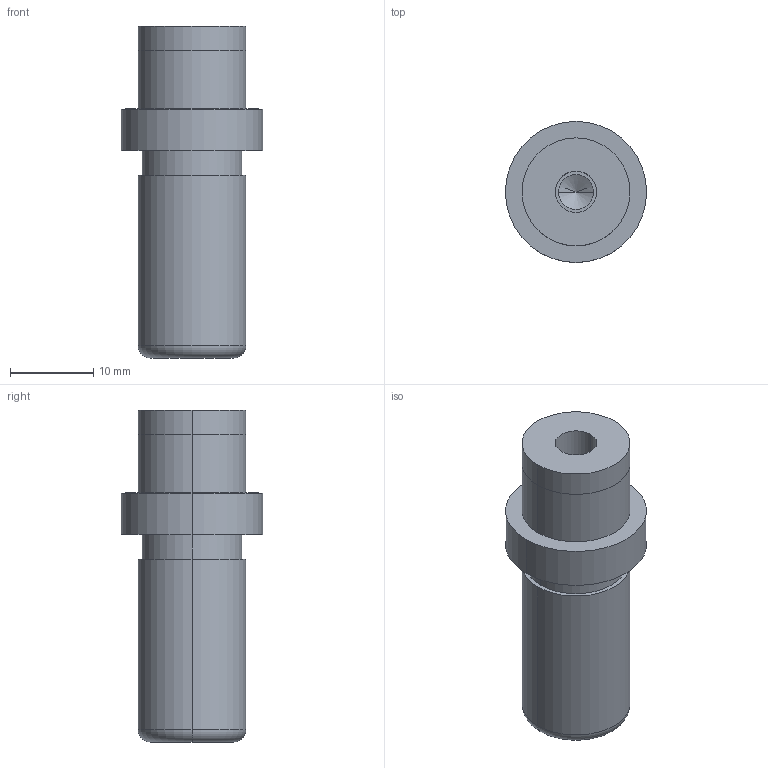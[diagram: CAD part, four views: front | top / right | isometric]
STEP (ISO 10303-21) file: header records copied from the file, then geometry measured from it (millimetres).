
FILE_DESCRIPTION(/* description */ (''),/* implementation_level */ '2;1');
FILE_NAME(/* name */ '3d_sgpw13-30_05288_r00.stp',/* time_stamp */ '2011-01-10T14:11:05+09:00',/* author */ ('MISUMI'),/* organization */ (''),/* preprocessor_version */ 'ST-DEVELOPER v11',/* originating_system */ 'UGS - NX 5.0',/* authorisation */ '');
FILE_SCHEMA (('CONFIG_CONTROL_DESIGN'));
Length unit declared in the file: millimetre
Products named in the file (1): 3d_sgpw13-30_05288_r00
Bounding box: 17 x 17 x 40 mm (x, y, z)
Volume: 5145.4 mm3; surface area: 2602.7 mm2
Topology: 1 solids, 1 shells, 31 faces, 64 edges, 38 vertices
Faces by surface type: cylinder 18, plane 7, cone 4, torus 2
Entity records: 890 total; most frequent: DIRECTION 162, CARTESIAN_POINT 130, ORIENTED_EDGE 120, AXIS2_PLACEMENT_3D 70, EDGE_CURVE 60, EDGE_LOOP 38, CIRCLE 38, VERTEX_POINT 38
